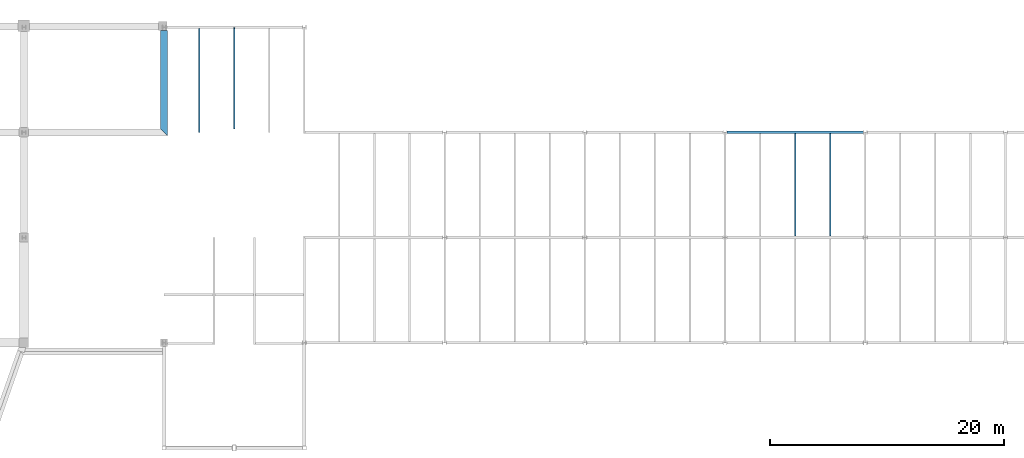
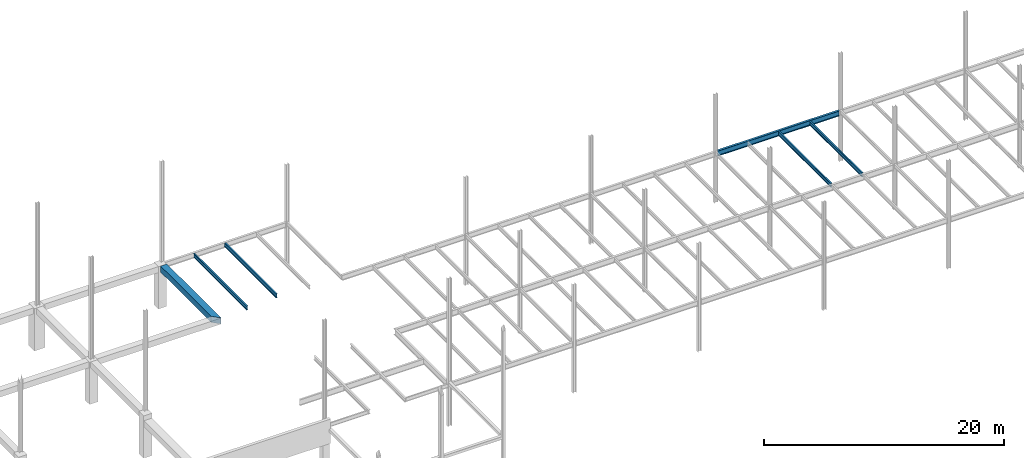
# One storey, part 16 of 19: 6 beams.
"""IFC2X3 building model written with IfcOpenShell, lengths in millimetres."""

from ifc_helpers import new_model, si_unit, origin, place, context, project, spatial, faceted_brep, material, element, save


model = new_model("IFC2X3")

# Units and contexts
context_of_model = context(None, 3, precision=1e-05, world=origin())
ifc_project = project(units=[si_unit("LENGTHUNIT", "METRE", prefix="MILLI")], contexts=[context_of_model])

# Building, storey
building = spatial("IfcBuilding", under=ifc_project, Name="Building", CompositionType="ELEMENT")
storey = spatial("IfcBuildingStorey", under=building, Name="FL2-FRM", CompositionType="ELEMENT")

# Beams
ifc_material_1 = material(Name="C4000")
beam_1_placement = place(None, origin())
element("IfcBeam", 1, at=beam_1_placement, inside=storey, material=ifc_material_1, Name="B118", context=context_of_model, shape_type="Brep", body=[
    faceted_brep([(304.8, 35738.0, 3687.2), (304.8, 35738.0, 4296.8), (304.8, 26695.2, 4296.8), (304.8, 26695.2, 3687.2), (-304.8, 35738.0, 4296.8), (-304.8, 27304.8, 4296.8), (-304.8, 35738.0, 3687.2), (-304.8, 27304.8, 3687.2)], [[[0, 1, 2, 3]], [[1, 4, 5, 2]], [[4, 6, 7, 5]], [[6, 0, 3, 7]], [[0, 6, 4, 1]], [[3, 2, 5, 7]]]),
])
ifc_material_2 = material(Name="A992")
beam_2_placement = place(None, origin())
element("IfcBeam", 2, at=beam_2_placement, inside=storey, material=ifc_material_2, Name="B536", context=context_of_model, shape_type="Brep", body=[
    faceted_brep([(53930.0, 26895.5, 3974.0), (54070.0, 26895.5, 3974.0), (54070.0, 18114.5, 3974.0), (53930.0, 18114.5, 3974.0), (54070.0, 26895.5, 3982.8), (54070.0, 18114.5, 3982.8), (54013.4, 26895.5, 3982.8), (54013.4, 18114.5, 3982.8), (54010.8, 26895.5, 3983.15), (54010.8, 18114.5, 3983.15), (54008.3, 26895.5, 3984.17), (54008.3, 18114.5, 3984.17), (54006.2, 26895.5, 3985.79), (54006.2, 18114.5, 3985.79), (54004.6, 26895.5, 3987.9), (54004.6, 18114.5, 3987.9), (54003.5, 26895.5, 3990.36), (54003.5, 18114.5, 3990.36), (54003.2, 26895.5, 3993.0), (54003.2, 18114.5, 3993.0), (54003.2, 26895.5, 4354.0), (54003.2, 18114.5, 4354.0), (54003.5, 26895.5, 4356.64), (54003.5, 18114.5, 4356.64), (54004.6, 26895.5, 4359.1), (54004.6, 18114.5, 4359.1), (54006.2, 26895.5, 4361.21), (54006.2, 18114.5, 4361.21), (54008.3, 26895.5, 4362.83), (54008.3, 18114.5, 4362.83), (54010.8, 26895.5, 4363.85), (54010.8, 18114.5, 4363.85), (54013.4, 26895.5, 4364.2), (54013.4, 18114.5, 4364.2), (54070.0, 26895.5, 4364.2), (54070.0, 18114.5, 4364.2), (54070.0, 26895.5, 4373.0), (54070.0, 18114.5, 4373.0), (53930.0, 26895.5, 4373.0), (53930.0, 18114.5, 4373.0), (53930.0, 26895.5, 4364.2), (53930.0, 18114.5, 4364.2), (53986.6, 26895.5, 4364.2), (53986.6, 18114.5, 4364.2), (53989.2, 26895.5, 4363.85), (53989.2, 18114.5, 4363.85), (53991.7, 26895.5, 4362.83), (53991.7, 18114.5, 4362.83), (53993.8, 26895.5, 4361.21), (53993.8, 18114.5, 4361.21), (53995.4, 26895.5, 4359.1), (53995.4, 18114.5, 4359.1), (53996.5, 26895.5, 4356.64), (53996.5, 18114.5, 4356.64), (53996.8, 26895.5, 4354.0), (53996.8, 18114.5, 4354.0), (53996.8, 26895.5, 3993.0), (53996.8, 18114.5, 3993.0), (53996.5, 26895.5, 3990.36), (53996.5, 18114.5, 3990.36), (53995.4, 26895.5, 3987.9), (53995.4, 18114.5, 3987.9), (53993.8, 26895.5, 3985.79), (53993.8, 18114.5, 3985.79), (53991.7, 26895.5, 3984.17), (53991.7, 18114.5, 3984.17), (53989.2, 26895.5, 3983.15), (53989.2, 18114.5, 3983.15), (53986.6, 26895.5, 3982.8), (53986.6, 18114.5, 3982.8), (53930.0, 26895.5, 3982.8), (53930.0, 18114.5, 3982.8)], [[[0, 1, 2, 3]], [[1, 4, 5, 2]], [[4, 6, 7, 5]], [[6, 8, 9, 7]], [[8, 10, 11, 9]], [[10, 12, 13, 11]], [[12, 14, 15, 13]], [[14, 16, 17, 15]], [[16, 18, 19, 17]], [[18, 20, 21, 19]], [[20, 22, 23, 21]], [[22, 24, 25, 23]], [[24, 26, 27, 25]], [[26, 28, 29, 27]], [[28, 30, 31, 29]], [[30, 32, 33, 31]], [[32, 34, 35, 33]], [[34, 36, 37, 35]], [[36, 38, 39, 37]], [[38, 40, 41, 39]], [[40, 42, 43, 41]], [[42, 44, 45, 43]], [[44, 46, 47, 45]], [[46, 48, 49, 47]], [[48, 50, 51, 49]], [[50, 52, 53, 51]], [[52, 54, 55, 53]], [[54, 56, 57, 55]], [[56, 58, 59, 57]], [[58, 60, 61, 59]], [[60, 62, 63, 61]], [[62, 64, 65, 63]], [[64, 66, 67, 65]], [[66, 68, 69, 67]], [[68, 70, 71, 69]], [[70, 0, 3, 71]], [[0, 70, 68, 66, 64, 62, 60, 58, 56, 54, 52, 50, 48, 46, 44, 42, 40, 38, 36, 34, 32, 30, 28, 26, 24, 22, 20, 18, 16, 14, 12, 10, 8, 6, 4, 1]], [[3, 2, 5, 7, 9, 11, 13, 15, 17, 19, 21, 23, 25, 27, 29, 31, 33, 35, 37, 39, 41, 43, 45, 47, 49, 51, 53, 55, 57, 59, 61, 63, 65, 67, 69, 71]]]),
])
ifc_material_3 = material(Name="A992")
beam_3_placement = place(None, origin())
element("IfcBeam", 3, at=beam_3_placement, inside=storey, material=ifc_material_3, Name="B537", context=context_of_model, shape_type="Brep", body=[
    faceted_brep([(56930.0, 26895.5, 3974.0), (57070.0, 26895.5, 3974.0), (57070.0, 18114.5, 3974.0), (56930.0, 18114.5, 3974.0), (57070.0, 26895.5, 3982.8), (57070.0, 18114.5, 3982.8), (57013.4, 26895.5, 3982.8), (57013.4, 18114.5, 3982.8), (57010.8, 26895.5, 3983.15), (57010.8, 18114.5, 3983.15), (57008.3, 26895.5, 3984.17), (57008.3, 18114.5, 3984.17), (57006.2, 26895.5, 3985.79), (57006.2, 18114.5, 3985.79), (57004.6, 26895.5, 3987.9), (57004.6, 18114.5, 3987.9), (57003.5, 26895.5, 3990.36), (57003.5, 18114.5, 3990.36), (57003.2, 26895.5, 3993.0), (57003.2, 18114.5, 3993.0), (57003.2, 26895.5, 4354.0), (57003.2, 18114.5, 4354.0), (57003.5, 26895.5, 4356.64), (57003.5, 18114.5, 4356.64), (57004.6, 26895.5, 4359.1), (57004.6, 18114.5, 4359.1), (57006.2, 26895.5, 4361.21), (57006.2, 18114.5, 4361.21), (57008.3, 26895.5, 4362.83), (57008.3, 18114.5, 4362.83), (57010.8, 26895.5, 4363.85), (57010.8, 18114.5, 4363.85), (57013.4, 26895.5, 4364.2), (57013.4, 18114.5, 4364.2), (57070.0, 26895.5, 4364.2), (57070.0, 18114.5, 4364.2), (57070.0, 26895.5, 4373.0), (57070.0, 18114.5, 4373.0), (56930.0, 26895.5, 4373.0), (56930.0, 18114.5, 4373.0), (56930.0, 26895.5, 4364.2), (56930.0, 18114.5, 4364.2), (56986.6, 26895.5, 4364.2), (56986.6, 18114.5, 4364.2), (56989.2, 26895.5, 4363.85), (56989.2, 18114.5, 4363.85), (56991.7, 26895.5, 4362.83), (56991.7, 18114.5, 4362.83), (56993.8, 26895.5, 4361.21), (56993.8, 18114.5, 4361.21), (56995.4, 26895.5, 4359.1), (56995.4, 18114.5, 4359.1), (56996.5, 26895.5, 4356.64), (56996.5, 18114.5, 4356.64), (56996.8, 26895.5, 4354.0), (56996.8, 18114.5, 4354.0), (56996.8, 26895.5, 3993.0), (56996.8, 18114.5, 3993.0), (56996.5, 26895.5, 3990.36), (56996.5, 18114.5, 3990.36), (56995.4, 26895.5, 3987.9), (56995.4, 18114.5, 3987.9), (56993.8, 26895.5, 3985.79), (56993.8, 18114.5, 3985.79), (56991.7, 26895.5, 3984.17), (56991.7, 18114.5, 3984.17), (56989.2, 26895.5, 3983.15), (56989.2, 18114.5, 3983.15), (56986.6, 26895.5, 3982.8), (56986.6, 18114.5, 3982.8), (56930.0, 26895.5, 3982.8), (56930.0, 18114.5, 3982.8)], [[[0, 1, 2, 3]], [[1, 4, 5, 2]], [[4, 6, 7, 5]], [[6, 8, 9, 7]], [[8, 10, 11, 9]], [[10, 12, 13, 11]], [[12, 14, 15, 13]], [[14, 16, 17, 15]], [[16, 18, 19, 17]], [[18, 20, 21, 19]], [[20, 22, 23, 21]], [[22, 24, 25, 23]], [[24, 26, 27, 25]], [[26, 28, 29, 27]], [[28, 30, 31, 29]], [[30, 32, 33, 31]], [[32, 34, 35, 33]], [[34, 36, 37, 35]], [[36, 38, 39, 37]], [[38, 40, 41, 39]], [[40, 42, 43, 41]], [[42, 44, 45, 43]], [[44, 46, 47, 45]], [[46, 48, 49, 47]], [[48, 50, 51, 49]], [[50, 52, 53, 51]], [[52, 54, 55, 53]], [[54, 56, 57, 55]], [[56, 58, 59, 57]], [[58, 60, 61, 59]], [[60, 62, 63, 61]], [[62, 64, 65, 63]], [[64, 66, 67, 65]], [[66, 68, 69, 67]], [[68, 70, 71, 69]], [[70, 0, 3, 71]], [[0, 70, 68, 66, 64, 62, 60, 58, 56, 54, 52, 50, 48, 46, 44, 42, 40, 38, 36, 34, 32, 30, 28, 26, 24, 22, 20, 18, 16, 14, 12, 10, 8, 6, 4, 1]], [[3, 2, 5, 7, 9, 11, 13, 15, 17, 19, 21, 23, 25, 27, 29, 31, 33, 35, 37, 39, 41, 43, 45, 47, 49, 51, 53, 55, 57, 59, 61, 63, 65, 67, 69, 71]]]),
])
ifc_material_4 = material(Name="A992")
beam_4_placement = place(None, origin())
element("IfcBeam", 4, at=beam_4_placement, inside=storey, material=ifc_material_4, Name="Column492", context=context_of_model, shape_type="Brep", body=[
    faceted_brep([(48154.0, 26895.5, 3845.0), (48154.0, 27104.5, 3845.0), (59843.0, 27104.5, 3845.0), (59843.0, 26895.5, 3845.0), (48154.0, 27104.5, 3858.3), (59843.0, 27104.5, 3858.3), (48154.0, 27017.4, 3858.3), (59843.0, 27017.4, 3858.3), (48154.0, 27014.2, 3858.73), (59843.0, 27014.2, 3858.73), (48154.0, 27011.1, 3860.0), (59843.0, 27011.1, 3860.0), (48154.0, 27008.5, 3862.02), (59843.0, 27008.5, 3862.02), (48154.0, 27006.5, 3864.65), (59843.0, 27006.5, 3864.65), (48154.0, 27005.2, 3867.71), (59843.0, 27005.2, 3867.71), (48154.0, 27004.8, 3871.0), (59843.0, 27004.8, 3871.0), (48154.0, 27004.8, 4347.0), (59843.0, 27004.8, 4347.0), (48154.0, 27005.2, 4350.29), (59843.0, 27005.2, 4350.29), (48154.0, 27006.5, 4353.35), (59843.0, 27006.5, 4353.35), (48154.0, 27008.5, 4355.98), (59843.0, 27008.5, 4355.98), (48154.0, 27011.1, 4358.0), (59843.0, 27011.1, 4358.0), (48154.0, 27014.2, 4359.27), (59843.0, 27014.2, 4359.27), (48154.0, 27017.4, 4359.7), (59843.0, 27017.4, 4359.7), (48154.0, 27104.5, 4359.7), (59843.0, 27104.5, 4359.7), (48154.0, 27104.5, 4373.0), (59843.0, 27104.5, 4373.0), (48154.0, 26895.5, 4373.0), (59843.0, 26895.5, 4373.0), (48154.0, 26895.5, 4359.7), (59843.0, 26895.5, 4359.7), (48154.0, 26982.6, 4359.7), (59843.0, 26982.6, 4359.7), (48154.0, 26985.8, 4359.27), (59843.0, 26985.8, 4359.27), (48154.0, 26988.9, 4358.0), (59843.0, 26988.9, 4358.0), (48154.0, 26991.5, 4355.98), (59843.0, 26991.5, 4355.98), (48154.0, 26993.5, 4353.35), (59843.0, 26993.5, 4353.35), (48154.0, 26994.8, 4350.29), (59843.0, 26994.8, 4350.29), (48154.0, 26995.3, 4347.0), (59843.0, 26995.3, 4347.0), (48154.0, 26995.3, 3871.0), (59843.0, 26995.3, 3871.0), (48154.0, 26994.8, 3867.71), (59843.0, 26994.8, 3867.71), (48154.0, 26993.5, 3864.65), (59843.0, 26993.5, 3864.65), (48154.0, 26991.5, 3862.02), (59843.0, 26991.5, 3862.02), (48154.0, 26988.9, 3860.0), (59843.0, 26988.9, 3860.0), (48154.0, 26985.8, 3858.73), (59843.0, 26985.8, 3858.73), (48154.0, 26982.6, 3858.3), (59843.0, 26982.6, 3858.3), (48154.0, 26895.5, 3858.3), (59843.0, 26895.5, 3858.3)], [[[0, 1, 2, 3]], [[1, 4, 5, 2]], [[4, 6, 7, 5]], [[6, 8, 9, 7]], [[8, 10, 11, 9]], [[10, 12, 13, 11]], [[12, 14, 15, 13]], [[14, 16, 17, 15]], [[16, 18, 19, 17]], [[18, 20, 21, 19]], [[20, 22, 23, 21]], [[22, 24, 25, 23]], [[24, 26, 27, 25]], [[26, 28, 29, 27]], [[28, 30, 31, 29]], [[30, 32, 33, 31]], [[32, 34, 35, 33]], [[34, 36, 37, 35]], [[36, 38, 39, 37]], [[38, 40, 41, 39]], [[40, 42, 43, 41]], [[42, 44, 45, 43]], [[44, 46, 47, 45]], [[46, 48, 49, 47]], [[48, 50, 51, 49]], [[50, 52, 53, 51]], [[52, 54, 55, 53]], [[54, 56, 57, 55]], [[56, 58, 59, 57]], [[58, 60, 61, 59]], [[60, 62, 63, 61]], [[62, 64, 65, 63]], [[64, 66, 67, 65]], [[66, 68, 69, 67]], [[68, 70, 71, 69]], [[70, 0, 3, 71]], [[0, 70, 68, 66, 64, 62, 60, 58, 56, 54, 52, 50, 48, 46, 44, 42, 40, 38, 36, 34, 32, 30, 28, 26, 24, 22, 20, 18, 16, 14, 12, 10, 8, 6, 4, 1]], [[3, 2, 5, 7, 9, 11, 13, 15, 17, 19, 21, 23, 25, 27, 29, 31, 33, 35, 37, 39, 41, 43, 45, 47, 49, 51, 53, 55, 57, 59, 61, 63, 65, 67, 69, 71]]]),
])
ifc_material_5 = material(Name="A992")
beam_5_placement = place(None, origin())
element("IfcBeam", 5, at=beam_5_placement, inside=storey, material=ifc_material_5, Name="B582", context=context_of_model, shape_type="Brep", body=[
    faceted_brep([(2930.0, 35895.5, 3974.0), (3070.0, 35895.5, 3974.0), (3070.0, 27000.0, 3974.0), (2930.0, 27000.0, 3974.0), (3070.0, 35895.5, 3982.8), (3070.0, 27000.0, 3982.8), (3013.4, 35895.5, 3982.8), (3013.4, 27000.0, 3982.8), (3010.76, 35895.5, 3983.15), (3010.76, 27000.0, 3983.15), (3008.3, 35895.5, 3984.17), (3008.3, 27000.0, 3984.17), (3006.19, 35895.5, 3985.79), (3006.19, 27000.0, 3985.79), (3004.57, 35895.5, 3987.9), (3004.57, 27000.0, 3987.9), (3003.55, 35895.5, 3990.36), (3003.55, 27000.0, 3990.36), (3003.2, 35895.5, 3993.0), (3003.2, 27000.0, 3993.0), (3003.2, 35895.5, 4354.0), (3003.2, 27000.0, 4354.0), (3003.55, 35895.5, 4356.64), (3003.55, 27000.0, 4356.64), (3004.57, 35895.5, 4359.1), (3004.57, 27000.0, 4359.1), (3006.19, 35895.5, 4361.21), (3006.19, 27000.0, 4361.21), (3008.3, 35895.5, 4362.83), (3008.3, 27000.0, 4362.83), (3010.76, 35895.5, 4363.85), (3010.76, 27000.0, 4363.85), (3013.4, 35895.5, 4364.2), (3013.4, 27000.0, 4364.2), (3070.0, 35895.5, 4364.2), (3070.0, 27000.0, 4364.2), (3070.0, 35895.5, 4373.0), (3070.0, 27000.0, 4373.0), (2930.0, 35895.5, 4373.0), (2930.0, 27000.0, 4373.0), (2930.0, 35895.5, 4364.2), (2930.0, 27000.0, 4364.2), (2986.6, 35895.5, 4364.2), (2986.6, 27000.0, 4364.2), (2989.24, 35895.5, 4363.85), (2989.24, 27000.0, 4363.85), (2991.7, 35895.5, 4362.83), (2991.7, 27000.0, 4362.83), (2993.81, 35895.5, 4361.21), (2993.81, 27000.0, 4361.21), (2995.43, 35895.5, 4359.1), (2995.43, 27000.0, 4359.1), (2996.45, 35895.5, 4356.64), (2996.45, 27000.0, 4356.64), (2996.8, 35895.5, 4354.0), (2996.8, 27000.0, 4354.0), (2996.8, 35895.5, 3993.0), (2996.8, 27000.0, 3993.0), (2996.45, 35895.5, 3990.36), (2996.45, 27000.0, 3990.36), (2995.43, 35895.5, 3987.9), (2995.43, 27000.0, 3987.9), (2993.81, 35895.5, 3985.79), (2993.81, 27000.0, 3985.79), (2991.7, 35895.5, 3984.17), (2991.7, 27000.0, 3984.17), (2989.24, 35895.5, 3983.15), (2989.24, 27000.0, 3983.15), (2986.6, 35895.5, 3982.8), (2986.6, 27000.0, 3982.8), (2930.0, 35895.5, 3982.8), (2930.0, 27000.0, 3982.8)], [[[0, 1, 2, 3]], [[1, 4, 5, 2]], [[4, 6, 7, 5]], [[6, 8, 9, 7]], [[8, 10, 11, 9]], [[10, 12, 13, 11]], [[12, 14, 15, 13]], [[14, 16, 17, 15]], [[16, 18, 19, 17]], [[18, 20, 21, 19]], [[20, 22, 23, 21]], [[22, 24, 25, 23]], [[24, 26, 27, 25]], [[26, 28, 29, 27]], [[28, 30, 31, 29]], [[30, 32, 33, 31]], [[32, 34, 35, 33]], [[34, 36, 37, 35]], [[36, 38, 39, 37]], [[38, 40, 41, 39]], [[40, 42, 43, 41]], [[42, 44, 45, 43]], [[44, 46, 47, 45]], [[46, 48, 49, 47]], [[48, 50, 51, 49]], [[50, 52, 53, 51]], [[52, 54, 55, 53]], [[54, 56, 57, 55]], [[56, 58, 59, 57]], [[58, 60, 61, 59]], [[60, 62, 63, 61]], [[62, 64, 65, 63]], [[64, 66, 67, 65]], [[66, 68, 69, 67]], [[68, 70, 71, 69]], [[70, 0, 3, 71]], [[0, 70, 68, 66, 64, 62, 60, 58, 56, 54, 52, 50, 48, 46, 44, 42, 40, 38, 36, 34, 32, 30, 28, 26, 24, 22, 20, 18, 16, 14, 12, 10, 8, 6, 4, 1]], [[3, 2, 5, 7, 9, 11, 13, 15, 17, 19, 21, 23, 25, 27, 29, 31, 33, 35, 37, 39, 41, 43, 45, 47, 49, 51, 53, 55, 57, 59, 61, 63, 65, 67, 69, 71]]]),
])
ifc_material_6 = material(Name="A992")
beam_6_placement = place(None, origin())
element("IfcBeam", 6, at=beam_6_placement, inside=storey, material=ifc_material_6, Name="B763", context=context_of_model, shape_type="Brep", body=[
    faceted_brep([(5930.0, 35985.3, 3974.0), (6070.0, 35985.3, 3974.0), (6070.0, 27304.8, 3974.0), (5930.0, 27304.8, 3974.0), (6070.0, 35985.3, 3982.8), (6070.0, 27304.8, 3982.8), (6013.4, 35985.3, 3982.8), (6013.4, 27304.8, 3982.8), (6012.96, 35985.3, 3982.81), (6012.96, 27304.8, 3982.81), (6012.51, 35985.3, 3982.84), (6012.51, 27304.8, 3982.84), (6012.07, 35985.3, 3982.89), (6012.07, 27304.8, 3982.89), (6011.63, 35985.3, 3982.95), (6011.63, 27304.8, 3982.95), (6011.19, 35985.3, 3983.04), (6011.19, 27304.8, 3983.04), (6010.76, 35985.3, 3983.15), (6010.76, 27304.8, 3983.15), (6010.33, 35985.3, 3983.27), (6010.33, 27304.8, 3983.27), (6009.91, 35985.3, 3983.42), (6009.91, 27304.8, 3983.42), (6009.5, 35985.3, 3983.58), (6009.5, 27304.8, 3983.58), (6009.09, 35985.3, 3983.76), (6009.09, 27304.8, 3983.76), (6008.69, 35985.3, 3983.95), (6008.69, 27304.8, 3983.95), (6008.3, 35985.3, 3984.17), (6008.3, 27304.8, 3984.17), (6007.92, 35985.3, 3984.4), (6007.92, 27304.8, 3984.4), (6007.55, 35985.3, 3984.64), (6007.55, 27304.8, 3984.64), (6007.19, 35985.3, 3984.91), (6007.19, 27304.8, 3984.91), (6006.84, 35985.3, 3985.19), (6006.84, 27304.8, 3985.19), (6006.51, 35985.3, 3985.48), (6006.51, 27304.8, 3985.48), (6006.19, 35985.3, 3985.79), (6006.19, 27304.8, 3985.79), (6005.88, 35985.3, 3986.11), (6005.88, 27304.8, 3986.11), (6005.59, 35985.3, 3986.44), (6005.59, 27304.8, 3986.44), (6005.31, 35985.3, 3986.79), (6005.31, 27304.8, 3986.79), (6005.04, 35985.3, 3987.15), (6005.04, 27304.8, 3987.15), (6004.8, 35985.3, 3987.52), (6004.8, 27304.8, 3987.52), (6004.57, 35985.3, 3987.9), (6004.57, 27304.8, 3987.9), (6004.35, 35985.3, 3988.29), (6004.35, 27304.8, 3988.29), (6004.16, 35985.3, 3988.69), (6004.16, 27304.8, 3988.69), (6003.98, 35985.3, 3989.1), (6003.98, 27304.8, 3989.1), (6003.82, 35985.3, 3989.51), (6003.82, 27304.8, 3989.51), (6003.67, 35985.3, 3989.93), (6003.67, 27304.8, 3989.93), (6003.55, 35985.3, 3990.36), (6003.55, 27304.8, 3990.36), (6003.44, 35985.3, 3990.79), (6003.44, 27304.8, 3990.79), (6003.35, 35985.3, 3991.23), (6003.35, 27304.8, 3991.23), (6003.29, 35985.3, 3991.67), (6003.29, 27304.8, 3991.67), (6003.24, 35985.3, 3992.11), (6003.24, 27304.8, 3992.11), (6003.21, 35985.3, 3992.56), (6003.21, 27304.8, 3992.56), (6003.2, 35985.3, 3993.0), (6003.2, 27304.8, 3993.0), (6003.2, 35985.3, 4349.69), (6003.2, 35895.5, 4349.69), (6003.2, 35895.1, 4349.7), (6003.2, 35894.6, 4349.73), (6003.2, 35894.2, 4349.78), (6003.2, 35893.7, 4349.85), (6003.2, 35893.3, 4349.94), (6003.2, 35892.8, 4350.05), (6003.2, 35892.4, 4350.18), (6003.2, 35892.0, 4350.33), (6003.2, 35891.6, 4350.49), (6003.2, 35891.2, 4350.68), (6003.2, 35890.8, 4350.88), (6003.2, 35890.4, 4351.11), (6003.2, 35890.0, 4351.34), (6003.2, 35889.6, 4351.6), (6003.2, 35889.3, 4351.87), (6003.2, 35888.9, 4352.16), (6003.2, 35888.6, 4352.46), (6003.2, 35888.3, 4352.78), (6003.2, 35888.0, 4353.11), (6003.2, 35887.7, 4353.46), (6003.2, 35887.4, 4353.81), (6003.2, 35887.3, 4354.0), (6003.2, 27304.8, 4354.0), (6003.2, 35887.2, 4354.18), (6003.21, 35887.0, 4354.46), (6003.21, 27304.8, 4354.46), (6003.22, 35886.9, 4354.56), (6003.24, 35886.7, 4354.91), (6003.24, 27304.8, 4354.91), (6003.25, 35886.7, 4354.95), (6003.29, 35886.5, 4355.35), (6003.29, 35886.5, 4355.37), (6003.29, 27304.8, 4355.37), (6003.35, 35886.3, 4355.76), (6003.36, 35886.3, 4355.82), (6003.36, 27304.8, 4355.82), (6003.44, 35886.1, 4356.18), (6003.46, 35886.1, 4356.27), (6003.46, 27304.8, 4356.27), (6003.54, 35886.0, 4356.6), (6003.57, 35886.0, 4356.71), (6003.57, 27304.8, 4356.71), (6003.66, 35885.9, 4357.03), (6003.7, 35885.8, 4357.15), (6003.7, 27304.8, 4357.15), (6003.81, 35885.8, 4357.46), (6003.85, 35885.7, 4357.58), (6003.85, 27304.8, 4357.58), (6003.98, 35885.7, 4357.9), (6004.02, 35885.6, 4358.01), (6004.02, 27304.8, 4358.01), (6004.17, 35885.6, 4358.35), (6004.21, 35885.6, 4358.43), (6004.21, 27304.8, 4358.43), (6004.4, 35885.5, 4358.79), (6004.42, 35885.5, 4358.83), (6004.42, 27304.8, 4358.83), (6004.64, 35885.5, 4359.23), (6004.64, 27304.8, 4359.23), (6004.65, 35885.5, 4359.24), (6004.89, 35885.5, 4359.62), (6004.89, 27304.8, 4359.62), (6004.94, 35885.5, 4359.69), (6005.15, 35885.5, 4360.0), (6005.15, 27304.8, 4360.0), (6005.43, 35885.5, 4360.36), (6005.43, 27304.8, 4360.36), (6005.72, 35885.5, 4360.71), (6005.72, 27304.8, 4360.71), (6006.03, 35885.5, 4361.05), (6006.03, 27304.8, 4361.05), (6006.35, 35885.5, 4361.37), (6006.35, 27304.8, 4361.37), (6006.69, 35885.5, 4361.68), (6006.69, 27304.8, 4361.68), (6007.04, 35885.5, 4361.97), (6007.04, 27304.8, 4361.97), (6007.4, 35885.5, 4362.25), (6007.4, 27304.8, 4362.25), (6007.78, 35885.5, 4362.51), (6007.78, 27304.8, 4362.51), (6008.17, 35885.5, 4362.76), (6008.17, 27304.8, 4362.76), (6008.57, 35885.5, 4362.98), (6008.57, 27304.8, 4362.98), (6008.97, 35885.5, 4363.19), (6008.97, 27304.8, 4363.19), (6009.39, 35885.5, 4363.38), (6009.39, 27304.8, 4363.38), (6009.82, 35885.5, 4363.55), (6009.82, 27304.8, 4363.55), (6010.25, 35885.5, 4363.7), (6010.25, 27304.8, 4363.7), (6010.69, 35885.5, 4363.83), (6010.69, 27304.8, 4363.83), (6011.13, 35885.5, 4363.94), (6011.13, 27304.8, 4363.94), (6011.58, 35885.5, 4364.04), (6011.58, 27304.8, 4364.04), (6012.03, 35885.5, 4364.11), (6012.03, 27304.8, 4364.11), (6012.49, 35885.5, 4364.16), (6012.49, 27304.8, 4364.16), (6012.94, 35885.5, 4364.19), (6012.94, 27304.8, 4364.19), (6013.4, 35885.5, 4364.2), (6013.4, 27304.8, 4364.2), (6070.0, 35885.5, 4364.2), (6070.0, 27304.8, 4364.2), (6070.0, 35885.5, 4373.0), (6070.0, 27304.8, 4373.0), (5930.0, 35885.5, 4373.0), (5930.0, 27304.8, 4373.0), (5930.0, 35885.5, 4364.2), (5930.0, 27304.8, 4364.2), (5986.6, 35885.5, 4364.2), (5986.6, 27304.8, 4364.2), (5987.06, 35885.5, 4364.19), (5987.06, 27304.8, 4364.19), (5987.51, 35885.5, 4364.16), (5987.51, 27304.8, 4364.16), (5987.97, 35885.5, 4364.11), (5987.97, 27304.8, 4364.11), (5988.42, 35885.5, 4364.04), (5988.42, 27304.8, 4364.04), (5988.87, 35885.5, 4363.94), (5988.87, 27304.8, 4363.94), (5989.31, 35885.5, 4363.83), (5989.31, 27304.8, 4363.83), (5989.75, 35885.5, 4363.7), (5989.75, 27304.8, 4363.7), (5990.18, 35885.5, 4363.55), (5990.18, 27304.8, 4363.55), (5990.61, 35885.5, 4363.38), (5990.61, 27304.8, 4363.38), (5991.03, 35885.5, 4363.19), (5991.03, 27304.8, 4363.19), (5991.43, 35885.5, 4362.98), (5991.43, 27304.8, 4362.98), (5991.83, 35885.5, 4362.76), (5991.83, 27304.8, 4362.76), (5992.22, 35885.5, 4362.51), (5992.22, 27304.8, 4362.51), (5992.6, 35885.5, 4362.25), (5992.6, 27304.8, 4362.25), (5992.96, 35885.5, 4361.97), (5992.96, 27304.8, 4361.97), (5993.31, 35885.5, 4361.68), (5993.31, 27304.8, 4361.68), (5993.65, 35885.5, 4361.37), (5993.65, 27304.8, 4361.37), (5993.97, 35885.5, 4361.05), (5993.97, 27304.8, 4361.05), (5994.28, 35885.5, 4360.71), (5994.28, 27304.8, 4360.71), (5994.57, 35885.5, 4360.36), (5994.57, 27304.8, 4360.36), (5994.85, 35885.5, 4360.0), (5994.85, 27304.8, 4360.0), (5995.06, 35885.5, 4359.69), (5995.11, 35885.5, 4359.62), (5995.11, 27304.8, 4359.62), (5995.35, 35885.5, 4359.24), (5995.36, 35885.5, 4359.23), (5995.36, 27304.8, 4359.23), (5995.58, 35885.5, 4358.83), (5995.58, 27304.8, 4358.83), (5995.6, 35885.5, 4358.79), (5995.79, 35885.6, 4358.43), (5995.79, 27304.8, 4358.43), (5995.83, 35885.6, 4358.35), (5995.98, 35885.6, 4358.01), (5995.98, 27304.8, 4358.01), (5996.02, 35885.7, 4357.9), (5996.15, 35885.7, 4357.58), (5996.15, 27304.8, 4357.58), (5996.19, 35885.8, 4357.46), (5996.3, 35885.8, 4357.15), (5996.3, 27304.8, 4357.15), (5996.34, 35885.9, 4357.03), (5996.43, 35886.0, 4356.71), (5996.43, 27304.8, 4356.71), (5996.46, 35886.0, 4356.6), (5996.54, 35886.1, 4356.27), (5996.54, 27304.8, 4356.27), (5996.56, 35886.1, 4356.18), (5996.64, 35886.3, 4355.82), (5996.64, 27304.8, 4355.82), (5996.65, 35886.3, 4355.76), (5996.71, 35886.5, 4355.37), (5996.71, 27304.8, 4355.37), (5996.71, 35886.5, 4355.35), (5996.75, 35886.7, 4354.95), (5996.76, 35886.7, 4354.91), (5996.76, 27304.8, 4354.91), (5996.78, 35886.9, 4354.56), (5996.79, 35887.0, 4354.46), (5996.79, 27304.8, 4354.46), (5996.8, 35887.2, 4354.18), (5996.8, 35887.3, 4354.0), (5996.8, 27304.8, 4354.0), (5996.8, 35887.4, 4353.81), (5996.8, 35887.7, 4353.46), (5996.8, 35888.0, 4353.11), (5996.8, 35888.3, 4352.78), (5996.8, 35888.6, 4352.46), (5996.8, 35888.9, 4352.16), (5996.8, 35889.3, 4351.87), (5996.8, 35889.6, 4351.6), (5996.8, 35890.0, 4351.34), (5996.8, 35890.4, 4351.11), (5996.8, 35890.8, 4350.88), (5996.8, 35891.2, 4350.68), (5996.8, 35891.6, 4350.49), (5996.8, 35892.0, 4350.33), (5996.8, 35892.4, 4350.18), (5996.8, 35892.8, 4350.05), (5996.8, 35893.3, 4349.94), (5996.8, 35893.7, 4349.85), (5996.8, 35894.2, 4349.78), (5996.8, 35894.6, 4349.73), (5996.8, 35895.1, 4349.7), (5996.8, 35895.5, 4349.69), (5996.8, 35985.3, 4349.69), (5996.8, 35985.3, 3993.0), (5996.8, 27304.8, 3993.0), (5996.79, 35985.3, 3992.56), (5996.79, 27304.8, 3992.56), (5996.76, 35985.3, 3992.11), (5996.76, 27304.8, 3992.11), (5996.71, 35985.3, 3991.67), (5996.71, 27304.8, 3991.67), (5996.65, 35985.3, 3991.23), (5996.65, 27304.8, 3991.23), (5996.56, 35985.3, 3990.79), (5996.56, 27304.8, 3990.79), (5996.45, 35985.3, 3990.36), (5996.45, 27304.8, 3990.36), (5996.33, 35985.3, 3989.93), (5996.33, 27304.8, 3989.93), (5996.18, 35985.3, 3989.51), (5996.18, 27304.8, 3989.51), (5996.02, 35985.3, 3989.1), (5996.02, 27304.8, 3989.1), (5995.84, 35985.3, 3988.69), (5995.84, 27304.8, 3988.69), (5995.65, 35985.3, 3988.29), (5995.65, 27304.8, 3988.29), (5995.43, 35985.3, 3987.9), (5995.43, 27304.8, 3987.9), (5995.2, 35985.3, 3987.52), (5995.2, 27304.8, 3987.52), (5994.96, 35985.3, 3987.15), (5994.96, 27304.8, 3987.15), (5994.69, 35985.3, 3986.79), (5994.69, 27304.8, 3986.79), (5994.41, 35985.3, 3986.44), (5994.41, 27304.8, 3986.44), (5994.12, 35985.3, 3986.11), (5994.12, 27304.8, 3986.11), (5993.81, 35985.3, 3985.79), (5993.81, 27304.8, 3985.79), (5993.49, 35985.3, 3985.48), (5993.49, 27304.8, 3985.48), (5993.16, 35985.3, 3985.19), (5993.16, 27304.8, 3985.19), (5992.81, 35985.3, 3984.91), (5992.81, 27304.8, 3984.91), (5992.45, 35985.3, 3984.64), (5992.45, 27304.8, 3984.64), (5992.08, 35985.3, 3984.4), (5992.08, 27304.8, 3984.4), (5991.7, 35985.3, 3984.17), (5991.7, 27304.8, 3984.17), (5991.31, 35985.3, 3983.95), (5991.31, 27304.8, 3983.95), (5990.91, 35985.3, 3983.76), (5990.91, 27304.8, 3983.76), (5990.5, 35985.3, 3983.58), (5990.5, 27304.8, 3983.58), (5990.09, 35985.3, 3983.42), (5990.09, 27304.8, 3983.42), (5989.67, 35985.3, 3983.27), (5989.67, 27304.8, 3983.27), (5989.24, 35985.3, 3983.15), (5989.24, 27304.8, 3983.15), (5988.81, 35985.3, 3983.04), (5988.81, 27304.8, 3983.04), (5988.37, 35985.3, 3982.95), (5988.37, 27304.8, 3982.95), (5987.93, 35985.3, 3982.89), (5987.93, 27304.8, 3982.89), (5987.49, 35985.3, 3982.84), (5987.49, 27304.8, 3982.84), (5987.04, 35985.3, 3982.81), (5987.04, 27304.8, 3982.81), (5986.6, 35985.3, 3982.8), (5986.6, 27304.8, 3982.8), (5930.0, 35985.3, 3982.8), (5930.0, 27304.8, 3982.8)], [[[0, 1, 2, 3]], [[1, 4, 5, 2]], [[4, 6, 7, 5]], [[6, 8, 9, 7]], [[8, 10, 11, 9]], [[10, 12, 13, 11]], [[12, 14, 15, 13]], [[14, 16, 17, 15]], [[16, 18, 19, 17]], [[18, 20, 21, 19]], [[20, 22, 23, 21]], [[22, 24, 25, 23]], [[24, 26, 27, 25]], [[26, 28, 29, 27]], [[28, 30, 31, 29]], [[30, 32, 33, 31]], [[32, 34, 35, 33]], [[34, 36, 37, 35]], [[36, 38, 39, 37]], [[38, 40, 41, 39]], [[40, 42, 43, 41]], [[42, 44, 45, 43]], [[44, 46, 47, 45]], [[46, 48, 49, 47]], [[48, 50, 51, 49]], [[50, 52, 53, 51]], [[52, 54, 55, 53]], [[54, 56, 57, 55]], [[56, 58, 59, 57]], [[58, 60, 61, 59]], [[60, 62, 63, 61]], [[62, 64, 65, 63]], [[64, 66, 67, 65]], [[66, 68, 69, 67]], [[68, 70, 71, 69]], [[70, 72, 73, 71]], [[72, 74, 75, 73]], [[74, 76, 77, 75]], [[76, 78, 79, 77]], [[78, 80, 81, 82, 83, 84, 85, 86, 87, 88, 89, 90, 91, 92, 93, 94, 95, 96, 97, 98, 99, 100, 101, 102, 103, 104, 79]], [[103, 105, 106, 107, 104]], [[106, 108, 109, 110, 107]], [[109, 111, 112, 113, 114, 110]], [[113, 115, 116, 117, 114]], [[116, 118, 119, 120, 117]], [[119, 121, 122, 123, 120]], [[122, 124, 125, 126, 123]], [[125, 127, 128, 129, 126]], [[128, 130, 131, 132, 129]], [[131, 133, 134, 135, 132]], [[134, 136, 137, 138, 135]], [[137, 139, 140, 138]], [[139, 141, 142, 143, 140]], [[142, 144, 145, 146, 143]], [[145, 147, 148, 146]], [[147, 149, 150, 148]], [[149, 151, 152, 150]], [[151, 153, 154, 152]], [[153, 155, 156, 154]], [[155, 157, 158, 156]], [[157, 159, 160, 158]], [[159, 161, 162, 160]], [[161, 163, 164, 162]], [[163, 165, 166, 164]], [[165, 167, 168, 166]], [[167, 169, 170, 168]], [[169, 171, 172, 170]], [[171, 173, 174, 172]], [[173, 175, 176, 174]], [[175, 177, 178, 176]], [[177, 179, 180, 178]], [[179, 181, 182, 180]], [[181, 183, 184, 182]], [[183, 185, 186, 184]], [[185, 187, 188, 186]], [[187, 189, 190, 188]], [[189, 191, 192, 190]], [[191, 193, 194, 192]], [[193, 195, 196, 194]], [[195, 197, 198, 196]], [[197, 199, 200, 198]], [[199, 201, 202, 200]], [[201, 203, 204, 202]], [[203, 205, 206, 204]], [[205, 207, 208, 206]], [[207, 209, 210, 208]], [[209, 211, 212, 210]], [[211, 213, 214, 212]], [[213, 215, 216, 214]], [[215, 217, 218, 216]], [[217, 219, 220, 218]], [[219, 221, 222, 220]], [[221, 223, 224, 222]], [[223, 225, 226, 224]], [[225, 227, 228, 226]], [[227, 229, 230, 228]], [[229, 231, 232, 230]], [[231, 233, 234, 232]], [[233, 235, 236, 234]], [[235, 237, 238, 236]], [[237, 239, 240, 238]], [[239, 241, 242, 243, 240]], [[242, 244, 245, 246, 243]], [[245, 247, 248, 246]], [[247, 249, 250, 251, 248]], [[250, 252, 253, 254, 251]], [[253, 255, 256, 257, 254]], [[256, 258, 259, 260, 257]], [[259, 261, 262, 263, 260]], [[262, 264, 265, 266, 263]], [[265, 267, 268, 269, 266]], [[268, 270, 271, 272, 269]], [[271, 273, 274, 275, 276, 272]], [[275, 277, 278, 279, 276]], [[278, 280, 281, 282, 279]], [[281, 283, 284, 285, 286, 287, 288, 289, 290, 291, 292, 293, 294, 295, 296, 297, 298, 299, 300, 301, 302, 303, 304, 305, 306, 307, 282]], [[306, 308, 309, 307]], [[308, 310, 311, 309]], [[310, 312, 313, 311]], [[312, 314, 315, 313]], [[314, 316, 317, 315]], [[316, 318, 319, 317]], [[318, 320, 321, 319]], [[320, 322, 323, 321]], [[322, 324, 325, 323]], [[324, 326, 327, 325]], [[326, 328, 329, 327]], [[328, 330, 331, 329]], [[330, 332, 333, 331]], [[332, 334, 335, 333]], [[334, 336, 337, 335]], [[336, 338, 339, 337]], [[338, 340, 341, 339]], [[340, 342, 343, 341]], [[342, 344, 345, 343]], [[344, 346, 347, 345]], [[346, 348, 349, 347]], [[348, 350, 351, 349]], [[350, 352, 353, 351]], [[352, 354, 355, 353]], [[354, 356, 357, 355]], [[356, 358, 359, 357]], [[358, 360, 361, 359]], [[360, 362, 363, 361]], [[362, 364, 365, 363]], [[364, 366, 367, 365]], [[366, 368, 369, 367]], [[368, 370, 371, 369]], [[370, 372, 373, 371]], [[372, 374, 375, 373]], [[374, 376, 377, 375]], [[376, 378, 379, 377]], [[378, 380, 381, 379]], [[380, 0, 3, 381]], [[3, 2, 5, 7, 9, 11, 13, 15, 17, 19, 21, 23, 25, 27, 29, 31, 33, 35, 37, 39, 41, 43, 45, 47, 49, 51, 53, 55, 57, 59, 61, 63, 65, 67, 69, 71, 73, 75, 77, 79, 104, 107, 110, 114, 117, 120, 123, 126, 129, 132, 135, 138, 140, 143, 146, 148, 150, 152, 154, 156, 158, 160, 162, 164, 166, 168, 170, 172, 174, 176, 178, 180, 182, 184, 186, 188, 190, 192, 194, 196, 198, 200, 202, 204, 206, 208, 210, 212, 214, 216, 218, 220, 222, 224, 226, 228, 230, 232, 234, 236, 238, 240, 243, 246, 248, 251, 254, 257, 260, 263, 266, 269, 272, 276, 279, 282, 307, 309, 311, 313, 315, 317, 319, 321, 323, 325, 327, 329, 331, 333, 335, 337, 339, 341, 343, 345, 347, 349, 351, 353, 355, 357, 359, 361, 363, 365, 367, 369, 371, 373, 375, 377, 379, 381]], [[305, 80, 78, 76, 74, 72, 70, 68, 66, 64, 62, 60, 58, 56, 54, 52, 50, 48, 46, 44, 42, 40, 38, 36, 34, 32, 30, 28, 26, 24, 22, 20, 18, 16, 14, 12, 10, 8, 6, 4, 1, 0, 380, 378, 376, 374, 372, 370, 368, 366, 364, 362, 360, 358, 356, 354, 352, 350, 348, 346, 344, 342, 340, 338, 336, 334, 332, 330, 328, 326, 324, 322, 320, 318, 316, 314, 312, 310, 308, 306]], [[80, 305, 304, 81]], [[81, 304, 303, 82]], [[82, 303, 302, 83]], [[83, 302, 301, 84]], [[84, 301, 300, 85]], [[85, 300, 299, 86]], [[86, 299, 298, 87]], [[87, 298, 297, 88]], [[88, 297, 296, 89]], [[89, 296, 295, 90]], [[90, 295, 294, 91]], [[91, 294, 293, 92]], [[92, 293, 292, 93]], [[93, 292, 291, 94]], [[94, 291, 290, 95]], [[95, 290, 289, 96]], [[96, 289, 288, 97]], [[97, 288, 287, 98]], [[98, 287, 286, 99]], [[99, 286, 285, 100]], [[100, 285, 284, 101]], [[101, 284, 283, 102]], [[102, 283, 281, 280, 105, 103]], [[105, 280, 278, 277, 108, 106]], [[108, 277, 275, 274, 111, 109]], [[111, 274, 273, 112]], [[112, 273, 271, 270, 115, 113]], [[115, 270, 268, 267, 118, 116]], [[118, 267, 265, 264, 121, 119]], [[121, 264, 262, 261, 124, 122]], [[124, 261, 259, 258, 127, 125]], [[127, 258, 256, 255, 130, 128]], [[130, 255, 253, 252, 133, 131]], [[133, 252, 250, 249, 136, 134]], [[136, 249, 247, 245, 244, 141, 139, 137]], [[141, 244, 242, 241, 144, 142]], [[144, 241, 239, 237, 235, 233, 231, 229, 227, 225, 223, 221, 219, 217, 215, 213, 211, 209, 207, 205, 203, 201, 199, 197, 195, 193, 191, 189, 187, 185, 183, 181, 179, 177, 175, 173, 171, 169, 167, 165, 163, 161, 159, 157, 155, 153, 151, 149, 147, 145]]]),
])

save(model, "model.ifc")
